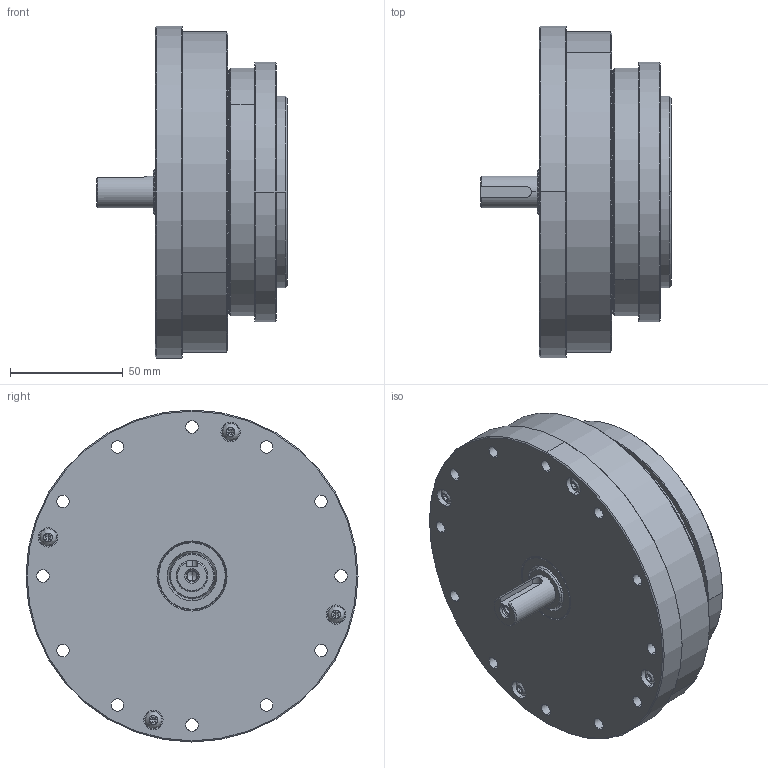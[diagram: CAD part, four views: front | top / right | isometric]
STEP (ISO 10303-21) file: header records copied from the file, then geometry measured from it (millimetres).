
FILE_DESCRIPTION (( 'STEP AP203' ), '1' );
FILE_NAME ('LHS-32-XXX-C-IV.step', '2025-01-07T06:45:46', ( '' ), ( '' ), 'SwSTEP 2.0', 'SolidWorks 2023', '' );
FILE_SCHEMA (( 'CONFIG_CONTROL_DESIGN' ));
Length unit declared in the file: metre
Products named in the file (1): LHS-32-XXX-C-IV
Bounding box: 84.5 x 147 x 147 mm (x, y, z)
Volume: 514802.8 mm3; surface area: 280165.2 mm2
Topology: 59 solids, 59 shells, 1639 faces, 4173 edges, 2543 vertices
Faces by surface type: cylinder 581, plane 472, bspline 340, cone 246
Entity records: 58536 total; most frequent: CARTESIAN_POINT 20410, ORIENTED_EDGE 7994, DIRECTION 7882, EDGE_CURVE 3997, AXIS2_PLACEMENT_3D 3253, VERTEX_POINT 2543, EDGE_LOOP 2012, CIRCLE 1953
